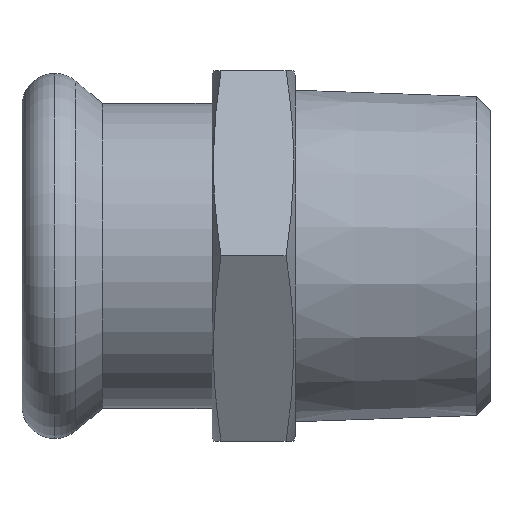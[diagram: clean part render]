
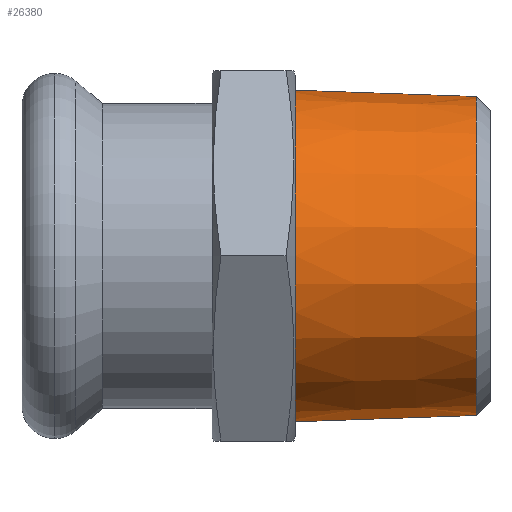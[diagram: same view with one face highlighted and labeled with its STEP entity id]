
A CAD part, top view. The second image highlights one B-rep face of the part: STEP entity #26380.
In plain terms, the highlighted conical face has half-angle 1.998 degrees and reference radius 17 mm.
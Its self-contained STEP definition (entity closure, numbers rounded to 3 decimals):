
#370=CARTESIAN_POINT('',(-73.071,-319.306,
0.));
#380=DIRECTION('',(-1.,0.,0.));
#390=DIRECTION('',(0.,-1.,0.));
#400=AXIS2_PLACEMENT_3D('',#370,#380,#390);
#410=CONICAL_SURFACE('',#400,17.,0.035);
#420=CARTESIAN_POINT('',(-73.071,-302.306,
0.));
#430=DIRECTION('',(-0.999,0.035,
0.));
#440=VECTOR('',#430,1.);
#450=LINE('',#420,#440);
#460=CARTESIAN_POINT('',(-54.47,-302.955,
0.));
#470=VERTEX_POINT('',#460);
#480=CARTESIAN_POINT('',(-73.071,-302.306,
0.));
#490=VERTEX_POINT('',#480);
#500=EDGE_CURVE('',#470,#490,#450,.T.);
#520=CARTESIAN_POINT('',(-73.071,-319.306,
0.));
#530=DIRECTION('',(-1.,0.,0.));
#540=DIRECTION('',(0.,-1.,0.));
#550=AXIS2_PLACEMENT_3D('',#520,#530,#540);
#560=CIRCLE('',#550,17.);
#570=CARTESIAN_POINT('',(-73.071,-336.306,
0.));
#580=VERTEX_POINT('',#570);
#610=CARTESIAN_POINT('',(-73.071,-336.306,
0.));
#620=DIRECTION('',(-0.999,-0.035,
0.));
#630=VECTOR('',#620,1.);
#640=LINE('',#610,#630);
#650=CARTESIAN_POINT('',(-54.47,-335.657,
0.));
#660=VERTEX_POINT('',#650);
#670=EDGE_CURVE('',#660,#580,#640,.T.);
#690=CARTESIAN_POINT('',(-54.47,-319.306,
0.));
#700=DIRECTION('',(-1.,0.,0.));
#710=DIRECTION('',(0.,-1.,0.));
#720=AXIS2_PLACEMENT_3D('',#690,#700,#710);
#730=CIRCLE('',#720,16.351);
#12360=CARTESIAN_POINT('',(-73.071,-310.806,
14.722));
#12370=VERTEX_POINT('',#12360);
#12380=EDGE_CURVE('',#12370,#490,#560,.T.);
#12400=EDGE_CURVE('',#580,#12370,#560,.T.);
#25900=EDGE_CURVE('',#660,#470,#730,.T.);
#26310=ORIENTED_EDGE('',*,*,#12380,.F.);
#26320=ORIENTED_EDGE('',*,*,#500,.T.);
#26330=ORIENTED_EDGE('',*,*,#25900,.T.);
#26340=ORIENTED_EDGE('',*,*,#670,.F.);
#26350=ORIENTED_EDGE('',*,*,#12400,.F.);
#26360=EDGE_LOOP('',(#26350,#26340,#26330,#26320,#26310));
#26370=FACE_OUTER_BOUND('',#26360,.T.);
#26380=ADVANCED_FACE('',(#26370),#410,.T.);
